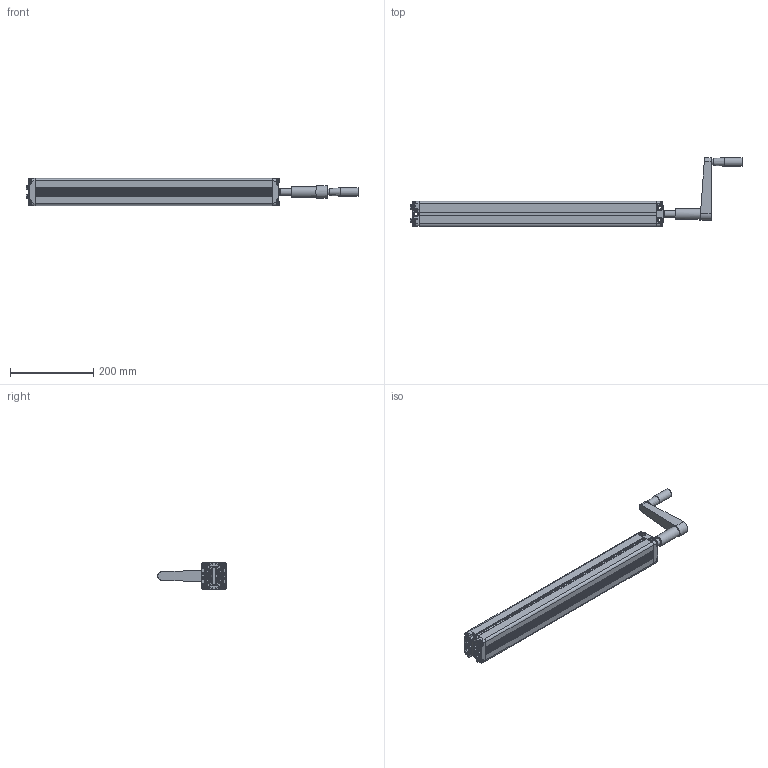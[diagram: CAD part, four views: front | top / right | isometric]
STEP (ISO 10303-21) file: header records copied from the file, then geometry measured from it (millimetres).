
FILE_DESCRIPTION(/* description */ ('Unknown'),/* implementation_level */ '2;1');
FILE_NAME(/* name */ '313.20034 Pumpe PF 4840 W mit Handkurbel',/* time_stamp */ '2018-01-19T16:27:42+01:00',/* author */ ('Unknown'),/* organization */ ('Unknown'),/* preprocessor_version */ 'ST-DEVELOPER v16.7',/* originating_system */ 'DEX',/* authorisation */ $);
FILE_SCHEMA (('AUTOMOTIVE_DESIGN {1 0 10303 214 3 1 1}'));
Products named in the file (29): 103.20034; 115.10054_oa_0; 125.00126; 115.00008_oa_1; 142.00021; 125.00021; 113.00005; 128.00001; 125.00052; 126.00013; 125.00053; 142.00077; 127.00014; 142.00244; Handgriff; 115.10054_oa_2; 115.00008_oa_3; 142.00013; 115.10054_oa_4; 115.00008_oa_5; 115.10054_oa_6; 115.00008_oa_7; 142.00057; 125.00144; 115.00141; 126.00076; 122.00040; 119.00354; 126.00075
Assembly tree (44 placements, depth 3):
  103.20034
    115.10054_oa_0
      125.00126
      115.00008_oa_1
      142.00021
      125.00021
    113.00005
      128.00001
      125.00052
      126.00013
      125.00053
      142.00077
      127.00014
      142.00244
      Handgriff
    115.10054_oa_2
      125.00126
      115.00008_oa_3
      142.00021
      125.00021
    142.00013  x8
    115.10054_oa_4
      125.00126
      115.00008_oa_5
      142.00021
      125.00021
    115.10054_oa_6
      125.00126
      115.00008_oa_7
      142.00021
      125.00021
    142.00057
    125.00144
    115.00141
      126.00076
      122.00040
    119.00354
    126.00075
Bounding box: 797.72 x 165.5 x 65 mm (x, y, z)
Volume: 858825.7 mm3; surface area: 487726.4 mm2
Topology: 34 solids, 34 shells, 2446 faces, 5968 edges, 3580 vertices
Faces by surface type: plane 977, cylinder 561, bspline 455, cone 334, torus 107, sphere 12
Full cylindrical faces by diameter (mm): 3.5 x4, 4 x2, 4.1 x4, 4.2 x5, 4.917 x2, 5 x8, 6 x1, 6.917 x8, 8 x10, 9.8 x8, 10 x4, 10.4 x1, 12.8 x1, 13 x5, 14 x2, 14.4 x4, 16 x2, 17 x1, 17.9 x8, 18 x1, 19 x1, 20.6 x1, 21 x1, 22 x1, 25.5 x1
Entity records: 79143 total; most frequent: CARTESIAN_POINT 39240, ORIENTED_EDGE 8370, DIRECTION 6895, EDGE_CURVE 4185, VERTEX_POINT 2687, AXIS2_PLACEMENT_3D 2430, LINE 2035, VECTOR 2035
